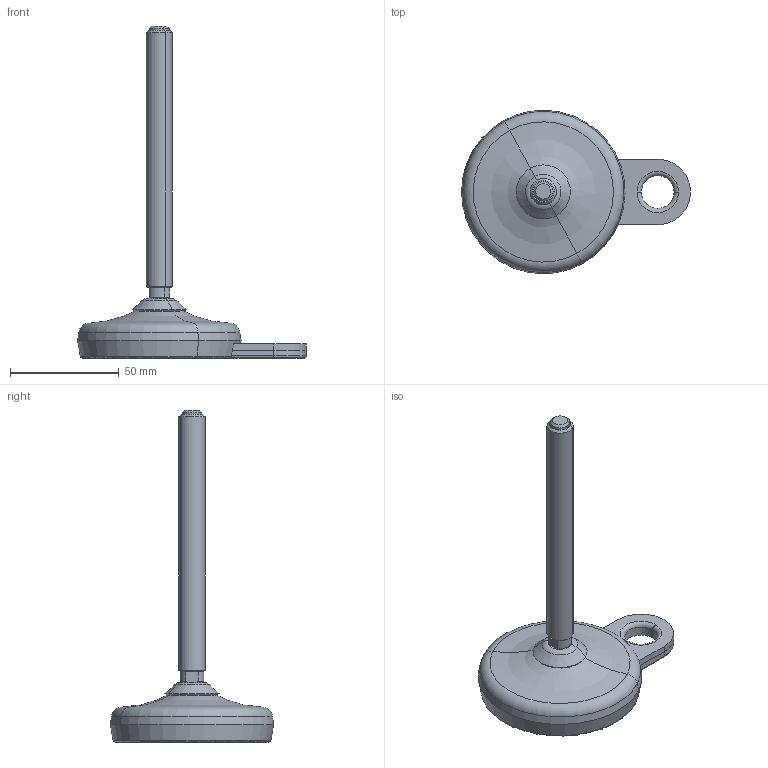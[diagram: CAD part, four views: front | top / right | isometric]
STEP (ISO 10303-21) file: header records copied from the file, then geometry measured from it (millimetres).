
FILE_DESCRIPTION(('CATIA V5 STEP Exchange'),'2;1');
FILE_NAME('X:\CODICI MOVEX\3D per clienti\3D definitivi\Part 900\P93403_01.stp','2016-10-03T12:07:38+00:00',('none'),('none'),'Version 5-6 Release 2012','CATIA V5 STEP AP203','none');
FILE_SCHEMA(('CONFIG_CONTROL_DESIGN'));
Length unit declared in the file: millimetre
Products named in the file (1): P93403_01
Assembly tree (3 placements, depth 2):
  P93403_01
    #58
    #1953
    #2294
Bounding box: 104.99 x 74.98 x 152.3 mm (x, y, z)
Volume: 93185.8 mm3; surface area: 39089.7 mm2
Topology: 5 solids, 5 shells, 132 faces, 286 edges, 176 vertices
Faces by surface type: cone 36, cylinder 35, plane 34, torus 21, revolution 6
Entity records: 3403 total; most frequent: CARTESIAN_POINT 619, ORIENTED_EDGE 572, DIRECTION 459, EDGE_CURVE 286, AXIS2_PLACEMENT_3D 272, CIRCLE 181, VERTEX_POINT 176, EDGE_LOOP 156
